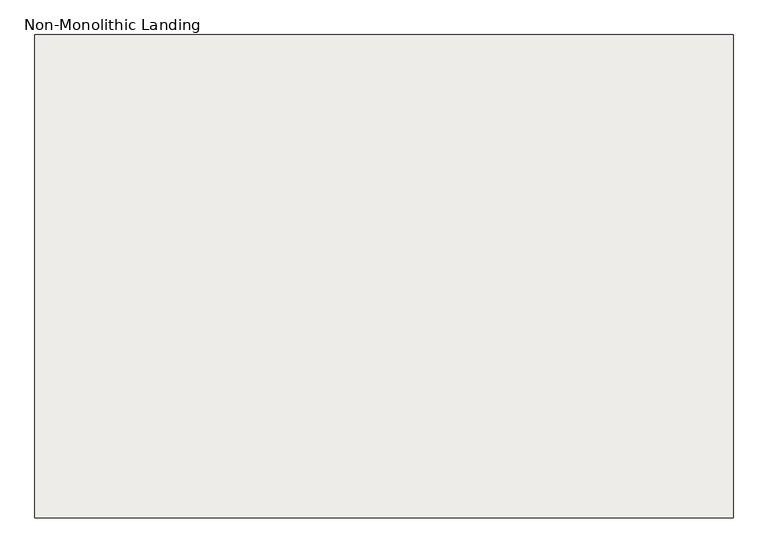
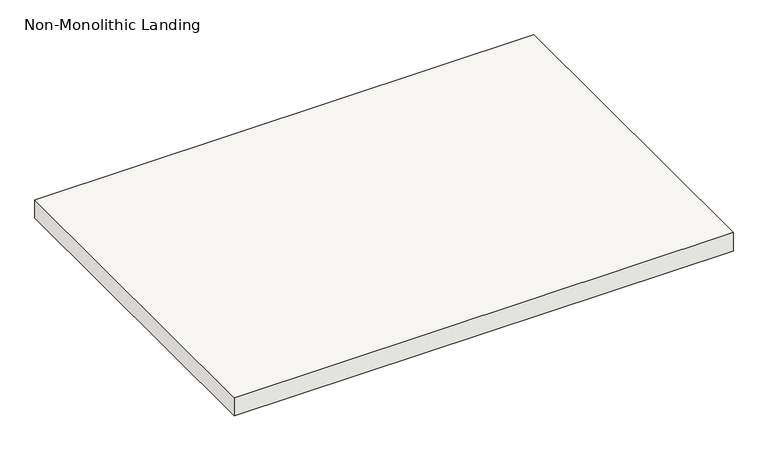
"""IFC4 building model written with IfcOpenShell, lengths in millimetres: slab geometry, Non-Monolithic Landing."""

from ifc_helpers import new_model, si_unit, frame, origin, place, context, project, spatial, polyline, outline, extrude, source, transform, mapped, element, save


def non_monolithic_landing_e0ff2bb4(model_context):
    return source(origin(), model_context, "Body", "SweptSolid", [
        extrude(outline(polyline([(87853.8048368, -1486.3855758), (89174.6048368, -1486.3855758), (89174.6048368, -2400.7855758), (87853.8048368, -2400.7855758), (87853.8048368, -1486.3855758)])), frame((0.0, 0.0, 2126.3428571), z_axis=(0.0, 0.0, 1.0), x_axis=(1.0, 0.0, 0.0)), (0.0, 0.0, 1.0), 50.8),
    ])


if __name__ == "__main__":
    model = new_model("IFC4")
    model_context = context("Model", 3, world=origin())
    ifc_project = project(units=[si_unit("LENGTHUNIT", "METRE", prefix="MILLI")], contexts=[model_context])
    site = spatial("IfcSite", under=ifc_project)
    building = spatial("IfcBuilding", under=site)
    placement = place(None, origin())
    non_monolithic_landing_shape = non_monolithic_landing_e0ff2bb4(model_context)
    element("IfcSlab", 1, ObjectType="Non-Monolithic Landing", at=placement, inside=building, context=model_context, shape_type="MappedRepresentation", body=[
        mapped(non_monolithic_landing_shape, transform((0.0, 0.0, 0.0), x_axis=(1.0, 0.0, 0.0), y_axis=(0.0, 1.0, 0.0), z_axis=(0.0, 0.0, 1.0))),
    ])
    save(model, "model.ifc")
